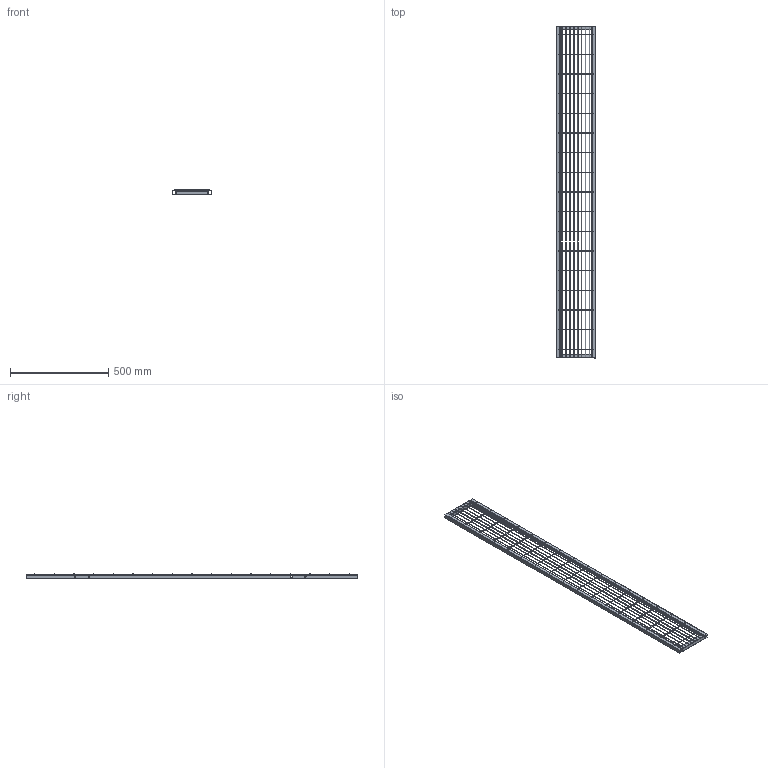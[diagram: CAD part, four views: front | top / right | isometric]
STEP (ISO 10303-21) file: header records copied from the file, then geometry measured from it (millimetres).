
FILE_DESCRIPTION (( 'STEP AP203' ), '1' );
FILE_NAME ('Framed Panel 200 x 1688.STEP', '2023-09-21T16:28:42', ( '' ), ( '' ), 'SwSTEP 2.0', 'SolidWorks 2023', '' );
FILE_SCHEMA (( 'CONFIG_CONTROL_DESIGN' ));
Length unit declared in the file: millimetre
Products named in the file (1): Framed Panel 200 x 1688
Bounding box: 200 x 1688 x 26 mm (x, y, z)
Volume: 513670.6 mm3; surface area: 686713 mm2
Topology: 29 solids, 29 shells, 204 faces, 438 edges, 292 vertices
Faces by surface type: cylinder 114, plane 90
Entity records: 5731 total; most frequent: DIRECTION 1076, CARTESIAN_POINT 935, ORIENTED_EDGE 876, EDGE_CURVE 438, AXIS2_PLACEMENT_3D 433, VERTEX_POINT 292, EDGE_LOOP 244, CIRCLE 228
